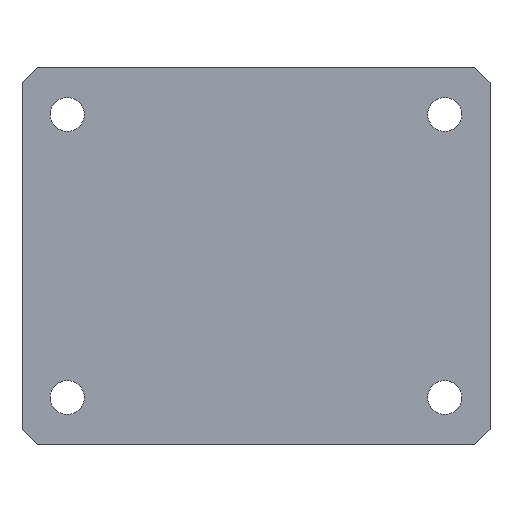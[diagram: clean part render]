
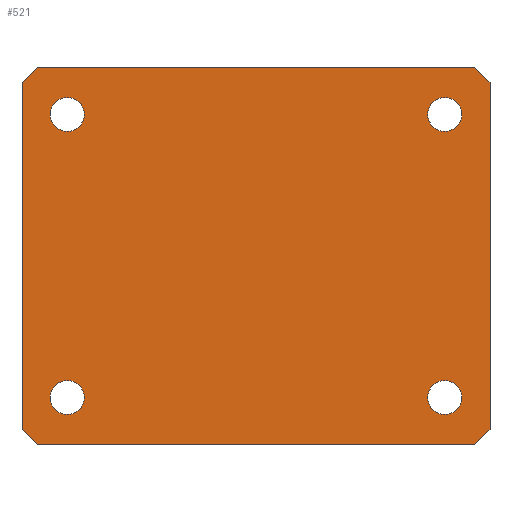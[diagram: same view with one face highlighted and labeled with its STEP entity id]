
A CAD part, top view. The second image highlights one B-rep face of the part: STEP entity #521.
In plain terms, the highlighted planar face has unit normal (0, 0, 1).
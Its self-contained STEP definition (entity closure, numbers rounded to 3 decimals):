
#54=AXIS2_PLACEMENT_3D('Circle Axis2P3D',#52,#53,$) ;
#78=AXIS2_PLACEMENT_3D('Circle Axis2P3D',#76,#77,$) ;
#111=AXIS2_PLACEMENT_3D('Circle Axis2P3D',#109,#110,$) ;
#135=AXIS2_PLACEMENT_3D('Circle Axis2P3D',#133,#134,$) ;
#168=AXIS2_PLACEMENT_3D('Circle Axis2P3D',#166,#167,$) ;
#192=AXIS2_PLACEMENT_3D('Circle Axis2P3D',#190,#191,$) ;
#225=AXIS2_PLACEMENT_3D('Circle Axis2P3D',#223,#224,$) ;
#249=AXIS2_PLACEMENT_3D('Circle Axis2P3D',#247,#248,$) ;
#488=AXIS2_PLACEMENT_3D('Plane Axis2P3D',#485,#486,#487) ;
#49=CARTESIAN_POINT('Vertex',(-25.,21.,0.)) ;
#52=CARTESIAN_POINT('Axis2P3D Location',(-25.,18.75,0.)) ;
#56=CARTESIAN_POINT('Vertex',(-25.,16.5,0.)) ;
#76=CARTESIAN_POINT('Axis2P3D Location',(-25.,18.75,0.)) ;
#106=CARTESIAN_POINT('Vertex',(25.,21.,0.)) ;
#109=CARTESIAN_POINT('Axis2P3D Location',(25.,18.75,0.)) ;
#113=CARTESIAN_POINT('Vertex',(25.,16.5,0.)) ;
#133=CARTESIAN_POINT('Axis2P3D Location',(25.,18.75,0.)) ;
#163=CARTESIAN_POINT('Vertex',(25.,-21.,0.)) ;
#166=CARTESIAN_POINT('Axis2P3D Location',(25.,-18.75,0.)) ;
#170=CARTESIAN_POINT('Vertex',(25.,-16.5,0.)) ;
#190=CARTESIAN_POINT('Axis2P3D Location',(25.,-18.75,0.)) ;
#220=CARTESIAN_POINT('Vertex',(-25.,-21.,0.)) ;
#223=CARTESIAN_POINT('Axis2P3D Location',(-25.,-18.75,0.)) ;
#227=CARTESIAN_POINT('Vertex',(-25.,-16.5,0.)) ;
#247=CARTESIAN_POINT('Axis2P3D Location',(-25.,-18.75,0.)) ;
#277=CARTESIAN_POINT('Vertex',(-31.,23.,0.)) ;
#280=CARTESIAN_POINT('Line Origine',(-30.,24.,0.)) ;
#284=CARTESIAN_POINT('Vertex',(-29.,25.,0.)) ;
#308=CARTESIAN_POINT('Vertex',(29.,25.,0.)) ;
#318=CARTESIAN_POINT('Line Origine',(0.,25.,0.)) ;
#335=CARTESIAN_POINT('Line Origine',(30.,24.,0.)) ;
#339=CARTESIAN_POINT('Vertex',(31.,23.,0.)) ;
#370=CARTESIAN_POINT('Vertex',(31.,-23.,0.)) ;
#380=CARTESIAN_POINT('Line Origine',(31.,0.,0.)) ;
#404=CARTESIAN_POINT('Line Origine',(30.,-24.,0.)) ;
#408=CARTESIAN_POINT('Vertex',(29.,-25.,0.)) ;
#432=CARTESIAN_POINT('Vertex',(-31.,-23.,0.)) ;
#437=CARTESIAN_POINT('Line Origine',(-31.,0.,0.)) ;
#463=CARTESIAN_POINT('Vertex',(-29.,-25.,0.)) ;
#473=CARTESIAN_POINT('Line Origine',(0.,-25.,0.)) ;
#485=CARTESIAN_POINT('Axis2P3D Location',(0.,0.,0.)) ;
#490=CARTESIAN_POINT('Line Origine',(-30.,-24.,0.)) ;
#53=DIRECTION('Axis2P3D Direction',(0.,0.,-1.)) ;
#77=DIRECTION('Axis2P3D Direction',(0.,0.,-1.)) ;
#110=DIRECTION('Axis2P3D Direction',(0.,0.,-1.)) ;
#134=DIRECTION('Axis2P3D Direction',(0.,0.,-1.)) ;
#167=DIRECTION('Axis2P3D Direction',(0.,0.,-1.)) ;
#191=DIRECTION('Axis2P3D Direction',(0.,0.,-1.)) ;
#224=DIRECTION('Axis2P3D Direction',(0.,0.,-1.)) ;
#248=DIRECTION('Axis2P3D Direction',(0.,0.,-1.)) ;
#281=DIRECTION('Vector Direction',(-0.707,-0.707,0.)) ;
#319=DIRECTION('Vector Direction',(-1.,0.,0.)) ;
#336=DIRECTION('Vector Direction',(0.707,-0.707,0.)) ;
#381=DIRECTION('Vector Direction',(0.,1.,0.)) ;
#405=DIRECTION('Vector Direction',(0.707,0.707,0.)) ;
#438=DIRECTION('Vector Direction',(0.,-1.,0.)) ;
#474=DIRECTION('Vector Direction',(1.,0.,0.)) ;
#486=DIRECTION('Axis2P3D Direction',(0.,0.,-1.)) ;
#487=DIRECTION('Axis2P3D XDirection',(0.,1.,0.)) ;
#491=DIRECTION('Vector Direction',(-0.707,0.707,0.)) ;
#282=VECTOR('Line Direction',#281,1.) ;
#320=VECTOR('Line Direction',#319,1.) ;
#337=VECTOR('Line Direction',#336,1.) ;
#382=VECTOR('Line Direction',#381,1.) ;
#406=VECTOR('Line Direction',#405,1.) ;
#439=VECTOR('Line Direction',#438,1.) ;
#475=VECTOR('Line Direction',#474,1.) ;
#492=VECTOR('Line Direction',#491,1.) ;
#496=ORIENTED_EDGE('',*,*,#494,.F.) ;
#497=ORIENTED_EDGE('',*,*,#477,.F.) ;
#498=ORIENTED_EDGE('',*,*,#410,.F.) ;
#499=ORIENTED_EDGE('',*,*,#384,.F.) ;
#500=ORIENTED_EDGE('',*,*,#341,.F.) ;
#501=ORIENTED_EDGE('',*,*,#322,.F.) ;
#502=ORIENTED_EDGE('',*,*,#286,.F.) ;
#503=ORIENTED_EDGE('',*,*,#441,.F.) ;
#506=ORIENTED_EDGE('',*,*,#80,.T.) ;
#507=ORIENTED_EDGE('',*,*,#58,.T.) ;
#510=ORIENTED_EDGE('',*,*,#137,.T.) ;
#511=ORIENTED_EDGE('',*,*,#115,.T.) ;
#514=ORIENTED_EDGE('',*,*,#194,.T.) ;
#515=ORIENTED_EDGE('',*,*,#172,.T.) ;
#518=ORIENTED_EDGE('',*,*,#251,.T.) ;
#519=ORIENTED_EDGE('',*,*,#229,.T.) ;
#508=FACE_BOUND('',#505,.T.) ;
#512=FACE_BOUND('',#509,.T.) ;
#516=FACE_BOUND('',#513,.T.) ;
#520=FACE_BOUND('',#517,.T.) ;
#521=ADVANCED_FACE('Corps principal',(#504,#508,#512,#516,#520),#489,.F.) ;
#55=CIRCLE('generated circle',#54,2.25) ;
#79=CIRCLE('generated circle',#78,2.25) ;
#112=CIRCLE('generated circle',#111,2.25) ;
#136=CIRCLE('generated circle',#135,2.25) ;
#169=CIRCLE('generated circle',#168,2.25) ;
#193=CIRCLE('generated circle',#192,2.25) ;
#226=CIRCLE('generated circle',#225,2.25) ;
#250=CIRCLE('generated circle',#249,2.25) ;
#58=EDGE_CURVE('',#57,#50,#55,.T.) ;
#80=EDGE_CURVE('',#50,#57,#79,.T.) ;
#115=EDGE_CURVE('',#114,#107,#112,.T.) ;
#137=EDGE_CURVE('',#107,#114,#136,.T.) ;
#172=EDGE_CURVE('',#171,#164,#169,.T.) ;
#194=EDGE_CURVE('',#164,#171,#193,.T.) ;
#229=EDGE_CURVE('',#228,#221,#226,.T.) ;
#251=EDGE_CURVE('',#221,#228,#250,.T.) ;
#286=EDGE_CURVE('',#278,#285,#283,.F.) ;
#322=EDGE_CURVE('',#285,#309,#321,.F.) ;
#341=EDGE_CURVE('',#309,#340,#338,.T.) ;
#384=EDGE_CURVE('',#340,#371,#383,.F.) ;
#410=EDGE_CURVE('',#371,#409,#407,.F.) ;
#441=EDGE_CURVE('',#433,#278,#440,.F.) ;
#477=EDGE_CURVE('',#409,#464,#476,.F.) ;
#494=EDGE_CURVE('',#464,#433,#493,.T.) ;
#495=EDGE_LOOP('',(#496,#497,#498,#499,#500,#501,#502,#503)) ;
#505=EDGE_LOOP('',(#506,#507)) ;
#509=EDGE_LOOP('',(#510,#511)) ;
#513=EDGE_LOOP('',(#514,#515)) ;
#517=EDGE_LOOP('',(#518,#519)) ;
#504=FACE_OUTER_BOUND('',#495,.T.) ;
#283=LINE('Line',#280,#282) ;
#321=LINE('Line',#318,#320) ;
#338=LINE('Line',#335,#337) ;
#383=LINE('Line',#380,#382) ;
#407=LINE('Line',#404,#406) ;
#440=LINE('Line',#437,#439) ;
#476=LINE('Line',#473,#475) ;
#493=LINE('Line',#490,#492) ;
#489=PLANE('',#488) ;
#50=VERTEX_POINT('',#49) ;
#57=VERTEX_POINT('',#56) ;
#107=VERTEX_POINT('',#106) ;
#114=VERTEX_POINT('',#113) ;
#164=VERTEX_POINT('',#163) ;
#171=VERTEX_POINT('',#170) ;
#221=VERTEX_POINT('',#220) ;
#228=VERTEX_POINT('',#227) ;
#278=VERTEX_POINT('',#277) ;
#285=VERTEX_POINT('',#284) ;
#309=VERTEX_POINT('',#308) ;
#340=VERTEX_POINT('',#339) ;
#371=VERTEX_POINT('',#370) ;
#409=VERTEX_POINT('',#408) ;
#433=VERTEX_POINT('',#432) ;
#464=VERTEX_POINT('',#463) ;
